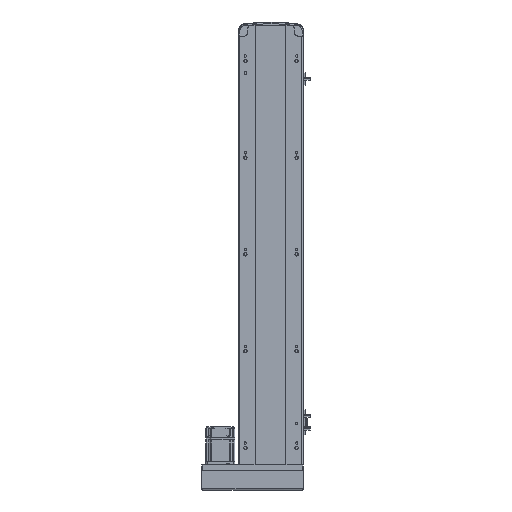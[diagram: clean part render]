
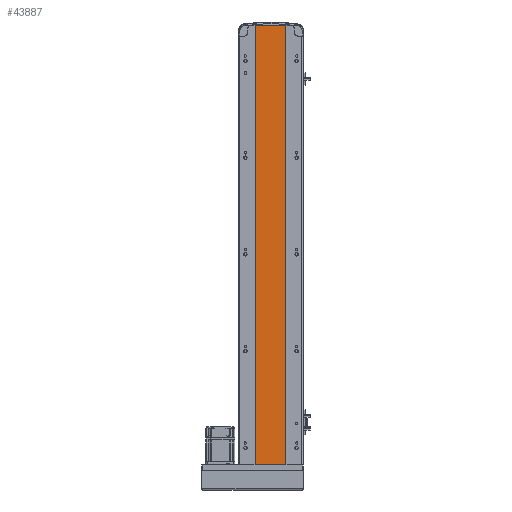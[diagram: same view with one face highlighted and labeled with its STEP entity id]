
A CAD part, front view. The second image highlights one B-rep face of the part: STEP entity #43887.
In plain terms, the highlighted planar face has unit normal (0, -1, 0).
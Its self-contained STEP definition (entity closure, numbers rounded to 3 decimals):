
#2651 = CARTESIAN_POINT ( 'NONE',  ( 30., 1., 909. ) ) ;
#3497 = DIRECTION ( 'NONE',  ( -1., 0., 0. ) ) ;
#7034 = VECTOR ( 'NONE', #26616, 1000. ) ;
#7110 = DIRECTION ( 'NONE',  ( 0., 0., -1. ) ) ;
#7398 = DIRECTION ( 'NONE',  ( 0., 0., -1. ) ) ;
#11728 = ORIENTED_EDGE ( 'NONE', *, *, #47877, .F. ) ;
#12577 = DIRECTION ( 'NONE',  ( 0., 1., 0. ) ) ;
#12871 = FACE_OUTER_BOUND ( 'NONE', #53122, .T. ) ;
#15676 = LINE ( 'NONE', #33937, #31617 ) ;
#16116 = CARTESIAN_POINT ( 'NONE',  ( -32., 1., 909. ) ) ;
#18776 = LINE ( 'NONE', #16116, #49898 ) ;
#21096 = CARTESIAN_POINT ( 'NONE',  ( -32., 1., 909. ) ) ;
#21517 = ORIENTED_EDGE ( 'NONE', *, *, #21713, .T. ) ;
#21713 = EDGE_CURVE ( 'NONE', #51037, #50013, #48217, .T. ) ;
#24047 = CARTESIAN_POINT ( 'NONE',  ( -32., 1., 909. ) ) ;
#24521 = CARTESIAN_POINT ( 'NONE',  ( -32., 1., 909. ) ) ;
#26616 = DIRECTION ( 'NONE',  ( 1., 0., 0. ) ) ;
#28799 = EDGE_CURVE ( 'NONE', #50013, #35688, #42350, .T. ) ;
#28925 = DIRECTION ( 'NONE',  ( 1., 0., 0. ) ) ;
#29199 = ORIENTED_EDGE ( 'NONE', *, *, #28799, .T. ) ;
#30383 = PLANE ( 'NONE',  #56204 ) ;
#31617 = VECTOR ( 'NONE', #7398, 1000. ) ;
#33937 = CARTESIAN_POINT ( 'NONE',  ( 30., 1., 909. ) ) ;
#35476 = ORIENTED_EDGE ( 'NONE', *, *, #52561, .F. ) ;
#35688 = VERTEX_POINT ( 'NONE', #48117 ) ;
#39034 = CARTESIAN_POINT ( 'NONE',  ( -32., 1., 0. ) ) ;
#39594 = CARTESIAN_POINT ( 'NONE',  ( -32., 1., 0. ) ) ;
#40050 = VERTEX_POINT ( 'NONE', #2651 ) ;
#42350 = LINE ( 'NONE', #39034, #7034 ) ;
#43887 = ADVANCED_FACE ( 'NONE', ( #12871 ), #30383, .F. ) ;
#47877 = EDGE_CURVE ( 'NONE', #51037, #40050, #18776, .T. ) ;
#48117 = CARTESIAN_POINT ( 'NONE',  ( 30., 1., 0. ) ) ;
#48217 = LINE ( 'NONE', #24521, #52422 ) ;
#49898 = VECTOR ( 'NONE', #28925, 1000. ) ;
#50013 = VERTEX_POINT ( 'NONE', #39594 ) ;
#51037 = VERTEX_POINT ( 'NONE', #24047 ) ;
#52422 = VECTOR ( 'NONE', #7110, 1000. ) ;
#52561 = EDGE_CURVE ( 'NONE', #40050, #35688, #15676, .T. ) ;
#53122 = EDGE_LOOP ( 'NONE', ( #29199, #35476, #11728, #21517 ) ) ;
#56204 = AXIS2_PLACEMENT_3D ( 'NONE', #21096, #12577, #3497 ) ;
